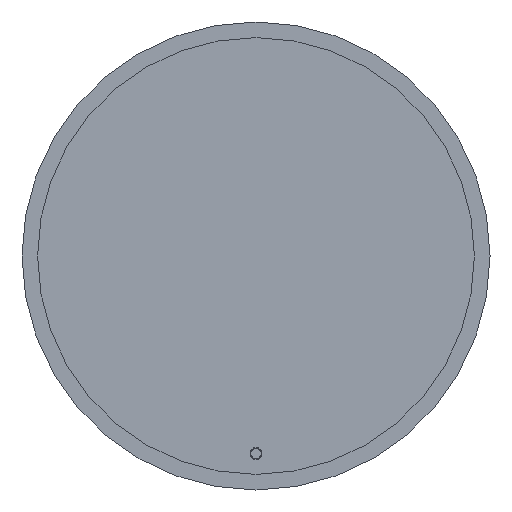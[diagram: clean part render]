
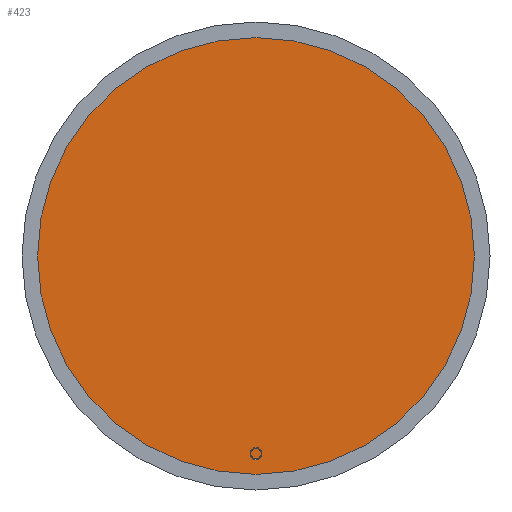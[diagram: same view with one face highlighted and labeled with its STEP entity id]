
A CAD part, front view. The second image highlights one B-rep face of the part: STEP entity #423.
In plain terms, the highlighted planar face has unit normal (0, -1, 0).
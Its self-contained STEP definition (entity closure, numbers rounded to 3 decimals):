
#34=PLANE('',#504);
#55=FACE_OUTER_BOUND('',#83,.T.);
#83=EDGE_LOOP('',(#336,#337));
#149=CIRCLE('',#501,450.);
#150=CIRCLE('',#502,450.);
#190=VERTEX_POINT('',#756);
#191=VERTEX_POINT('',#758);
#241=EDGE_CURVE('',#190,#191,#149,.T.);
#242=EDGE_CURVE('',#191,#190,#150,.T.);
#336=ORIENTED_EDGE('',*,*,#242,.F.);
#337=ORIENTED_EDGE('',*,*,#241,.F.);
#423=ADVANCED_FACE('',(#55),#34,.T.);
#501=AXIS2_PLACEMENT_3D('',#759,#625,#626);
#502=AXIS2_PLACEMENT_3D('',#760,#627,#628);
#504=AXIS2_PLACEMENT_3D('',#762,#631,#632);
#625=DIRECTION('center_axis',(0.,1.,0.));
#626=DIRECTION('ref_axis',(1.,0.,0.));
#627=DIRECTION('center_axis',(0.,1.,0.));
#628=DIRECTION('ref_axis',(1.,0.,0.));
#631=DIRECTION('center_axis',(0.,-1.,0.));
#632=DIRECTION('ref_axis',(0.,0.,-1.));
#756=CARTESIAN_POINT('',(0.,-35.,-450.));
#758=CARTESIAN_POINT('',(0.,-35.,450.));
#759=CARTESIAN_POINT('Origin',(0.,-35.,0.));
#760=CARTESIAN_POINT('Origin',(0.,-35.,0.));
#762=CARTESIAN_POINT('Origin',(0.,-35.,450.));
